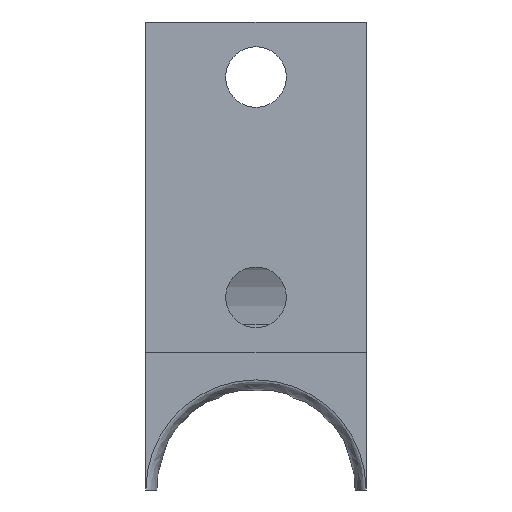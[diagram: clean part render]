
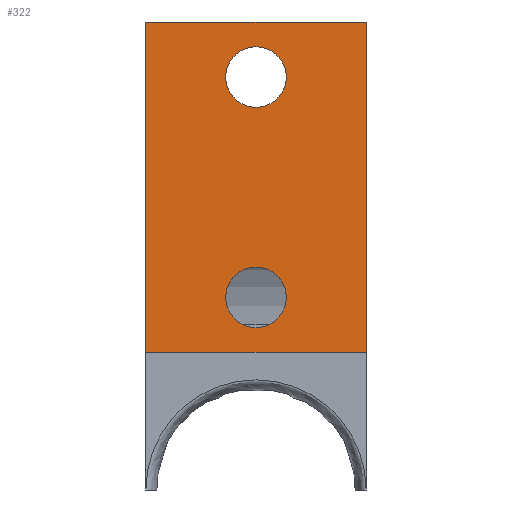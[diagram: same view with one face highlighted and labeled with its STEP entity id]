
A CAD part, front view. The second image highlights one B-rep face of the part: STEP entity #322.
In plain terms, the highlighted planar face has unit normal (0, -1, 0).
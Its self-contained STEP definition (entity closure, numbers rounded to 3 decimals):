
#17=FACE_BOUND('',#130,.T.);
#18=FACE_BOUND('',#131,.T.);
#36=LINE('',#538,#68);
#39=LINE('',#544,#71);
#41=LINE('',#547,#73);
#42=LINE('',#548,#74);
#68=VECTOR('',#419,10.);
#71=VECTOR('',#424,10.);
#73=VECTOR('',#428,10.);
#74=VECTOR('',#429,10.);
#93=PLANE('',#361);
#109=FACE_OUTER_BOUND('',#129,.T.);
#129=EDGE_LOOP('',(#258,#259,#260,#261));
#130=EDGE_LOOP('',(#262));
#131=EDGE_LOOP('',(#263));
#143=CIRCLE('',#353,2.75);
#145=CIRCLE('',#356,2.75);
#157=VERTEX_POINT('',#507);
#159=VERTEX_POINT('',#513);
#168=VERTEX_POINT('',#535);
#169=VERTEX_POINT('',#537);
#170=VERTEX_POINT('',#541);
#171=VERTEX_POINT('',#543);
#188=EDGE_CURVE('',#157,#157,#143,.T.);
#191=EDGE_CURVE('',#159,#159,#145,.T.);
#201=EDGE_CURVE('',#169,#168,#36,.T.);
#204=EDGE_CURVE('',#171,#170,#39,.T.);
#206=EDGE_CURVE('',#168,#171,#41,.T.);
#207=EDGE_CURVE('',#170,#169,#42,.T.);
#258=ORIENTED_EDGE('',*,*,#206,.T.);
#259=ORIENTED_EDGE('',*,*,#204,.T.);
#260=ORIENTED_EDGE('',*,*,#207,.T.);
#261=ORIENTED_EDGE('',*,*,#201,.T.);
#262=ORIENTED_EDGE('',*,*,#188,.T.);
#263=ORIENTED_EDGE('',*,*,#191,.T.);
#322=ADVANCED_FACE('',(#109,#17,#18),#93,.T.);
#353=AXIS2_PLACEMENT_3D('',#509,#395,#396);
#356=AXIS2_PLACEMENT_3D('',#515,#402,#403);
#361=AXIS2_PLACEMENT_3D('',#546,#426,#427);
#395=DIRECTION('center_axis',(0.,1.,0.));
#396=DIRECTION('ref_axis',(0.,0.,1.));
#402=DIRECTION('center_axis',(0.,1.,0.));
#403=DIRECTION('ref_axis',(0.,0.,1.));
#419=DIRECTION('',(-1.,0.,0.));
#424=DIRECTION('',(1.,0.,0.));
#426=DIRECTION('center_axis',(0.,-1.,0.));
#427=DIRECTION('ref_axis',(0.,0.,-1.));
#428=DIRECTION('',(0.,0.,-1.));
#429=DIRECTION('',(0.,0.,1.));
#507=CARTESIAN_POINT('',(10.,-5.,9.75));
#509=CARTESIAN_POINT('Origin',(10.,-5.,12.5));
#513=CARTESIAN_POINT('',(10.,-5.,-10.25));
#515=CARTESIAN_POINT('Origin',(10.,-5.,-7.5));
#535=CARTESIAN_POINT('',(0.,-5.,17.5));
#537=CARTESIAN_POINT('',(20.,-5.,17.5));
#538=CARTESIAN_POINT('',(0.,-5.,17.5));
#541=CARTESIAN_POINT('',(20.,-5.,-12.5));
#543=CARTESIAN_POINT('',(0.,-5.,-12.5));
#544=CARTESIAN_POINT('',(20.,-5.,-12.5));
#546=CARTESIAN_POINT('Origin',(10.,-5.,2.5));
#547=CARTESIAN_POINT('',(0.,-5.,-12.5));
#548=CARTESIAN_POINT('',(20.,-5.,17.5));
